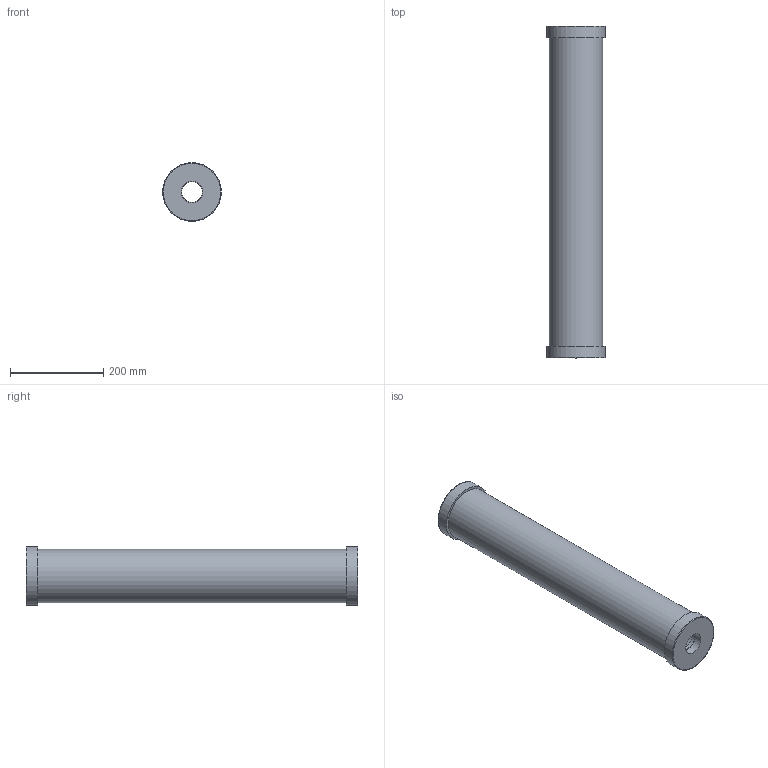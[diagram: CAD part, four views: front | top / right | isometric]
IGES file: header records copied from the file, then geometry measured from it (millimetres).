
Start section: SolidWorks IGES file using analytic representation for surfaces
Global section: file name: F:\Griffco-Valve\Griffco_current-projects\GV_web-files_2015\CAL cylinders\CC5000_P_NPT.IGS; native system: SolidWorks 2014; preprocessor: SolidWorks 2014; author: Dan; date: 160321.041017; units: inch
Bounding box: 125.73 x 711.2 x 125.73 mm (x, y, z)
Surface area: 512763.8 mm2 (no closed solid volume)
Topology: 0 solids, 0 shells, 18 faces, 47 edges, 37 vertices
Faces by surface type: revolution 10, bspline 8
